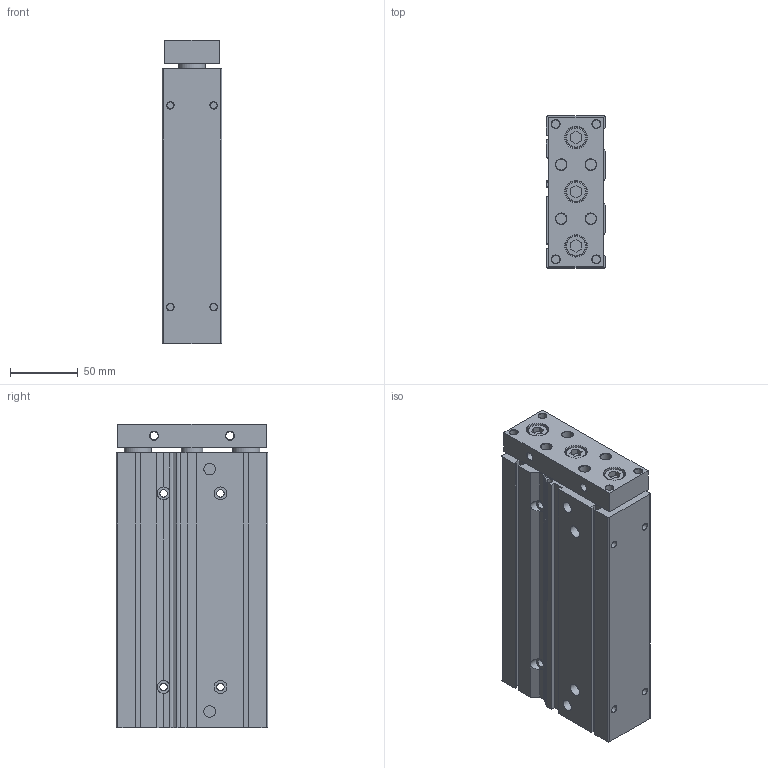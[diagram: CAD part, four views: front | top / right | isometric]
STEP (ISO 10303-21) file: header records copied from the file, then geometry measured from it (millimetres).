
FILE_DESCRIPTION((''),'2;1');
FILE_NAME('Z:\3D電子目錄\氣缸\TB(U)\TB(U)32\TB(U)32\TB32x150.stp','2011-09-22T10:53:54',('admin'),(''),'Autodesk Inventor 2012','Autodesk Inventor 2012','');
FILE_SCHEMA(('AUTOMOTIVE_DESIGN { 1 0 10303 214 1 1 1 1 }'));
Length unit declared in the file: millimetre
Products named in the file (1): TB32X150
Bounding box: 44 x 112 x 224 mm (x, y, z)
Volume: 1001760.6 mm3; surface area: 111174.3 mm2
Topology: 1 solids, 1 shells, 206 faces, 462 edges, 294 vertices
Faces by surface type: plane 110, cylinder 56, cone 37, torus 3
Full cylindrical faces by diameter (mm): 5 x8, 5.5 x4, 6 x10, 8 x4, 8.5 x2, 9.5 x8, 15 x3, 16 x4, 20 x4, 28 x2, 34 x1
Entity records: 5348 total; most frequent: DIRECTION 944, CARTESIAN_POINT 873, ORIENTED_EDGE 744, EDGE_CURVE 372, AXIS2_PLACEMENT_3D 365, EDGE_LOOP 364, VERTEX_POINT 294, VECTOR 214
